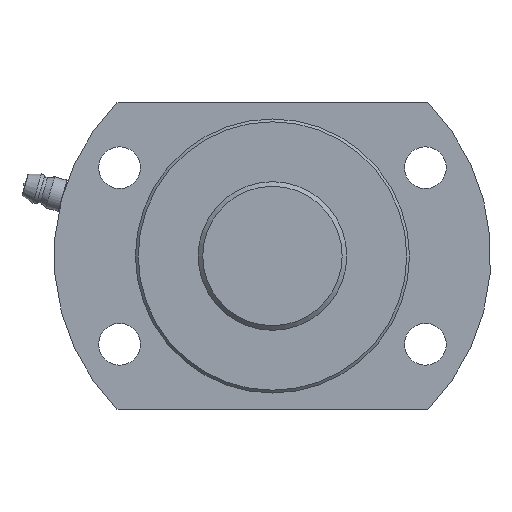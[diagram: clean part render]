
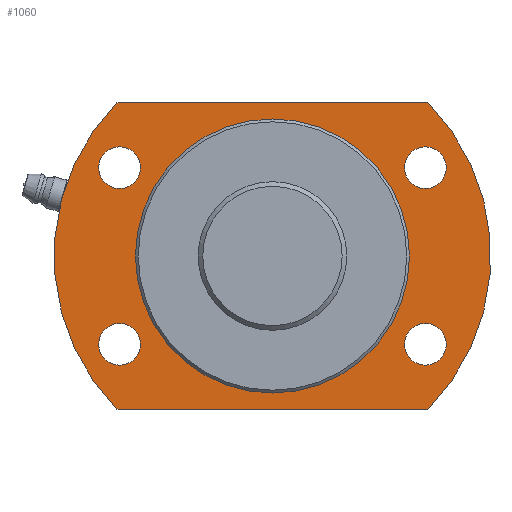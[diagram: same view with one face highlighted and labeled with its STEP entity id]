
A CAD part, left-side view. The second image highlights one B-rep face of the part: STEP entity #1060.
In plain terms, the highlighted planar face has unit normal (-1, 0, 0).
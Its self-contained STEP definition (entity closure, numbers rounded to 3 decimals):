
#551=CARTESIAN_POINT('',(472.287,0.,-29.5));
#552=VERTEX_POINT('',#551);
#553=CARTESIAN_POINT('',(472.287,0.0,0.0));
#554=DIRECTION('',(-1.0,0.0,0.0));
#555=DIRECTION('',(0.0,-1.0,0.0));
#556=AXIS2_PLACEMENT_3D('',#553,#554,#555);
#557=CIRCLE('',#556,29.5);
#558=EDGE_CURVE('',#552,#552,#557,.T.);
#692=CARTESIAN_POINT('',(472.287,-37.409,-19.));
#693=VERTEX_POINT('',#692);
#694=CARTESIAN_POINT('',(472.287,-32.909,-19.));
#695=DIRECTION('',(1.0,0.0,0.0));
#696=DIRECTION('',(0.0,1.0,0.0));
#697=AXIS2_PLACEMENT_3D('',#694,#695,#696);
#698=CIRCLE('',#697,4.5);
#699=EDGE_CURVE('',#693,#693,#698,.T.);
#741=CARTESIAN_POINT('',(472.287,28.409,19.));
#742=VERTEX_POINT('',#741);
#743=CARTESIAN_POINT('',(472.287,32.909,19.));
#744=DIRECTION('',(1.0,0.0,0.0));
#745=DIRECTION('',(0.0,1.0,0.0));
#746=AXIS2_PLACEMENT_3D('',#743,#744,#745);
#747=CIRCLE('',#746,4.5);
#748=EDGE_CURVE('',#742,#742,#747,.T.);
#790=CARTESIAN_POINT('',(472.287,28.409,-19.));
#791=VERTEX_POINT('',#790);
#792=CARTESIAN_POINT('',(472.287,32.909,-19.));
#793=DIRECTION('',(1.0,0.0,0.0));
#794=DIRECTION('',(0.0,1.0,0.0));
#795=AXIS2_PLACEMENT_3D('',#792,#793,#794);
#796=CIRCLE('',#795,4.5);
#797=EDGE_CURVE('',#791,#791,#796,.T.);
#839=CARTESIAN_POINT('',(472.287,-37.409,19.));
#840=VERTEX_POINT('',#839);
#841=CARTESIAN_POINT('',(472.287,-32.909,19.));
#842=DIRECTION('',(1.0,0.0,0.0));
#843=DIRECTION('',(0.0,1.0,0.0));
#844=AXIS2_PLACEMENT_3D('',#841,#842,#843);
#845=CIRCLE('',#844,4.5);
#846=EDGE_CURVE('',#840,#840,#845,.T.);
#932=CARTESIAN_POINT('',(472.287,-33.466,33.0));
#933=VERTEX_POINT('',#932);
#934=CARTESIAN_POINT('',(472.287,-33.466,-33.0));
#935=VERTEX_POINT('',#934);
#936=CARTESIAN_POINT('',(472.287,0.0,0.0));
#937=DIRECTION('',(1.0,0.0,0.0));
#938=DIRECTION('',(0.0,0.0,-1.0));
#939=AXIS2_PLACEMENT_3D('',#936,#937,#938);
#940=CIRCLE('',#939,47.0);
#941=EDGE_CURVE('',#933,#935,#940,.T.);
#964=CARTESIAN_POINT('',(472.287,33.466,-33.0));
#965=VERTEX_POINT('',#964);
#966=CARTESIAN_POINT('',(472.287,-33.466,-33.0));
#967=DIRECTION('',(0.0,1.0,0.0));
#968=VECTOR('',#967,66.933);
#969=LINE('',#966,#968);
#970=EDGE_CURVE('',#935,#965,#969,.T.);
#988=CARTESIAN_POINT('',(472.287,33.466,33.0));
#989=VERTEX_POINT('',#988);
#990=CARTESIAN_POINT('',(472.287,0.0,0.0));
#991=DIRECTION('',(1.0,0.0,0.0));
#992=DIRECTION('',(0.0,0.0,-1.0));
#993=AXIS2_PLACEMENT_3D('',#990,#991,#992);
#994=CIRCLE('',#993,47.0);
#995=EDGE_CURVE('',#965,#989,#994,.T.);
#1022=CARTESIAN_POINT('',(472.287,33.466,33.0));
#1023=DIRECTION('',(0.0,-1.0,0.0));
#1024=VECTOR('',#1023,66.933);
#1025=LINE('',#1022,#1024);
#1026=EDGE_CURVE('',#989,#933,#1025,.T.);
#1034=CARTESIAN_POINT('',(472.287,0.0,0.));
#1035=DIRECTION('',(1.0,0.0,0.0));
#1036=DIRECTION('',(0.0,0.0,-1.0));
#1037=AXIS2_PLACEMENT_3D('',#1034,#1035,#1036);
#1038=PLANE('',#1037);
#1039=ORIENTED_EDGE('',*,*,#941,.F.);
#1040=ORIENTED_EDGE('',*,*,#1026,.F.);
#1041=ORIENTED_EDGE('',*,*,#995,.F.);
#1042=ORIENTED_EDGE('',*,*,#970,.F.);
#1043=EDGE_LOOP('',(#1039,#1040,#1041,#1042));
#1044=FACE_OUTER_BOUND('',#1043,.T.);
#1045=ORIENTED_EDGE('',*,*,#699,.T.);
#1046=EDGE_LOOP('',(#1045));
#1047=FACE_BOUND('',#1046,.T.);
#1048=ORIENTED_EDGE('',*,*,#748,.T.);
#1049=EDGE_LOOP('',(#1048));
#1050=FACE_BOUND('',#1049,.T.);
#1051=ORIENTED_EDGE('',*,*,#797,.T.);
#1052=EDGE_LOOP('',(#1051));
#1053=FACE_BOUND('',#1052,.T.);
#1054=ORIENTED_EDGE('',*,*,#846,.T.);
#1055=EDGE_LOOP('',(#1054));
#1056=FACE_BOUND('',#1055,.T.);
#1057=ORIENTED_EDGE('',*,*,#558,.F.);
#1058=EDGE_LOOP('',(#1057));
#1059=FACE_BOUND('',#1058,.T.);
#1060=ADVANCED_FACE('',(#1044,#1047,#1050,#1053,#1056,#1059),#1038,.F.);
